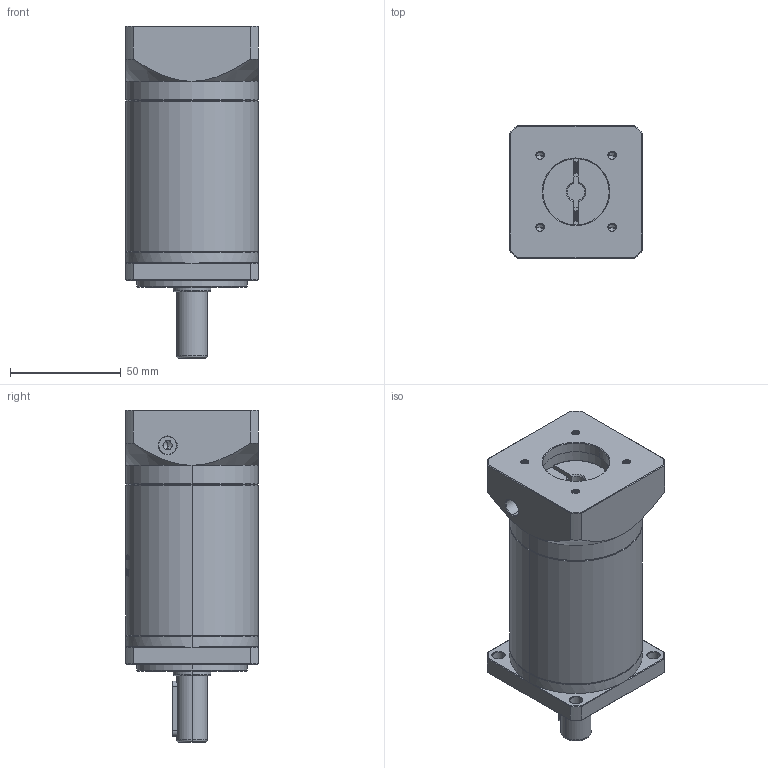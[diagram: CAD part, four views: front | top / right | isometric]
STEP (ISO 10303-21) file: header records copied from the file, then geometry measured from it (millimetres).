
FILE_DESCRIPTION (( 'STEP AP214' ), '1' );
FILE_NAME ('ZF060-D14-L3-P2-8-30-46-M4.step', '2023-08-16T04:25:18', ( '' ), ( '' ), 'SwSTEP 2.0', 'SolidWorks 2016', '' );
FILE_SCHEMA (( 'AUTOMOTIVE_DESIGN' ));
Length unit declared in the file: millimetre
Products named in the file (1): ZF060-D14-L3-P2-8-30-46-M4
Bounding box: 60 x 60 x 150 mm (x, y, z)
Volume: 327470.2 mm3; surface area: 51073.3 mm2
Topology: 6 solids, 6 shells, 1727 faces, 4680 edges, 3036 vertices
Faces by surface type: plane 794, bspline 354, cylinder 332, cone 227, torus 20
Entity records: 95924 total; most frequent: CARTESIAN_POINT 37601, ORIENTED_EDGE 9332, DIRECTION 6674, EDGE_CURVE 4666, VERTEX_POINT 3036, VECTOR 2366, LINE 2366, AXIS2_PLACEMENT_3D 2154
